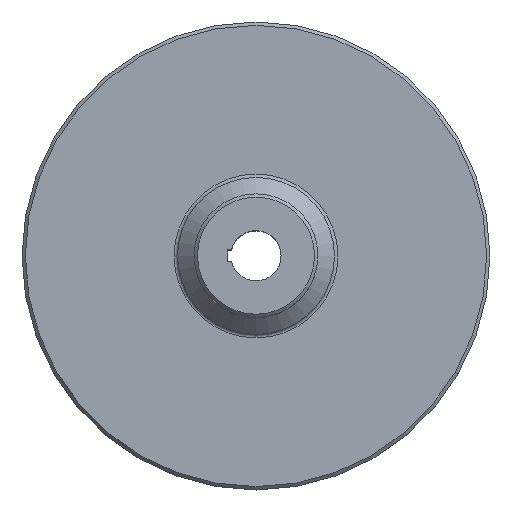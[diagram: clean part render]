
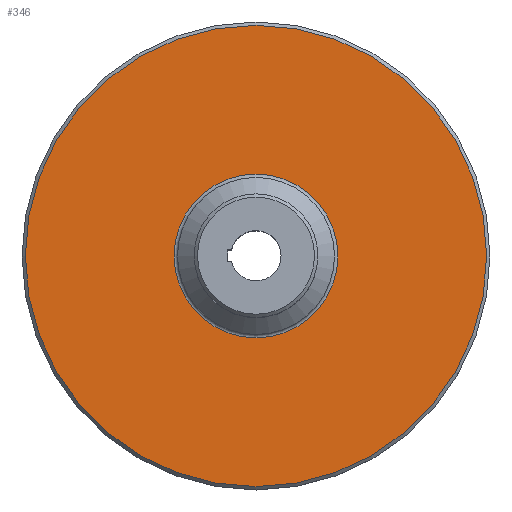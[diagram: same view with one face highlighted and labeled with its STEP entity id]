
A CAD part, top view. The second image highlights one B-rep face of the part: STEP entity #346.
In plain terms, the highlighted planar face has unit normal (0, 0, 1).
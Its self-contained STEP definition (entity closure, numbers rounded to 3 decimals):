
#23=PLANE('',#384);
#65=FACE_BOUND('',#120,.T.);
#86=FACE_OUTER_BOUND('',#119,.T.);
#119=EDGE_LOOP('',(#256));
#120=EDGE_LOOP('',(#257));
#154=CIRCLE('',#381,49.);
#156=CIRCLE('',#385,138.);
#178=VERTEX_POINT('',#737);
#180=VERTEX_POINT('',#743);
#209=EDGE_CURVE('',#178,#178,#154,.T.);
#211=EDGE_CURVE('',#180,#180,#156,.T.);
#256=ORIENTED_EDGE('',*,*,#211,.F.);
#257=ORIENTED_EDGE('',*,*,#209,.F.);
#346=ADVANCED_FACE('',(#86,#65),#23,.T.);
#381=AXIS2_PLACEMENT_3D('',#738,#442,#443);
#384=AXIS2_PLACEMENT_3D('',#742,#448,#449);
#385=AXIS2_PLACEMENT_3D('',#744,#450,#451);
#442=DIRECTION('center_axis',(0.,0.,1.));
#443=DIRECTION('ref_axis',(-1.,0.,0.));
#448=DIRECTION('center_axis',(0.,0.,1.));
#449=DIRECTION('ref_axis',(1.,0.,0.));
#450=DIRECTION('center_axis',(0.,0.,-1.));
#451=DIRECTION('ref_axis',(-1.,0.,0.));
#737=CARTESIAN_POINT('',(42.158,-11.257,-39.415));
#738=CARTESIAN_POINT('Origin',(-6.842,-11.257,-39.415));
#742=CARTESIAN_POINT('Origin',(-6.842,-11.257,-39.415));
#743=CARTESIAN_POINT('',(131.158,-11.257,-39.415));
#744=CARTESIAN_POINT('Origin',(-6.842,-11.257,-39.415));
